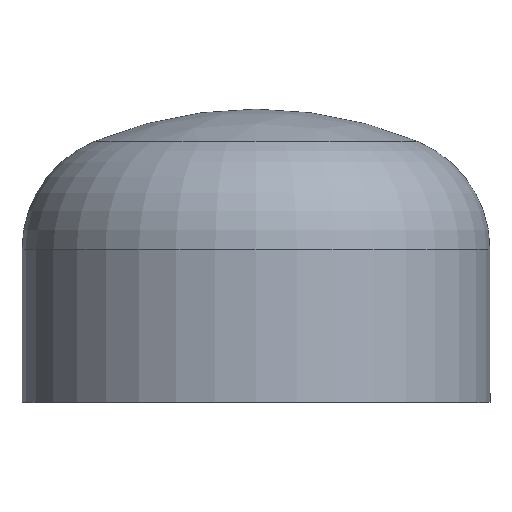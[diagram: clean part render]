
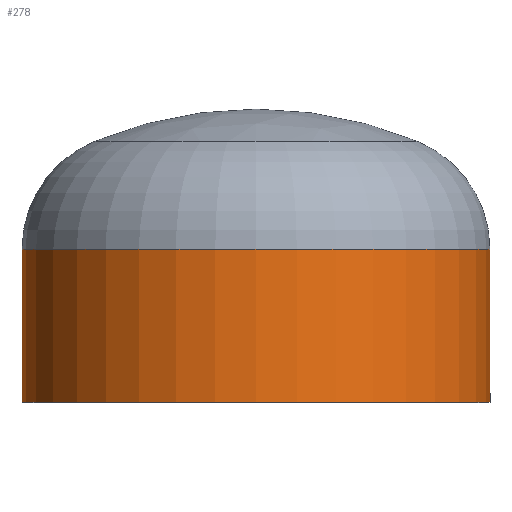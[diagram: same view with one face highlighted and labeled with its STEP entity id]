
A CAD part, top view. The second image highlights one B-rep face of the part: STEP entity #278.
In plain terms, the highlighted cylindrical face has radius 84.15 mm (diameter 168.3 mm), a partial arc.
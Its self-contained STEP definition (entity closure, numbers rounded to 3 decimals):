
#4 = CARTESIAN_POINT ( 'NONE',  ( 0., 55., 0. ) ) ;
#7 = ORIENTED_EDGE ( 'NONE', *, *, #201, .T. ) ;
#9 = AXIS2_PLACEMENT_3D ( 'NONE', #53, #93, #88 ) ;
#15 = VERTEX_POINT ( 'NONE', #408 ) ;
#44 = AXIS2_PLACEMENT_3D ( 'NONE', #362, #317, #207 ) ;
#51 = ORIENTED_EDGE ( 'NONE', *, *, #385, .T. ) ;
#53 = CARTESIAN_POINT ( 'NONE',  ( 0., 0., 0. ) ) ;
#68 = EDGE_LOOP ( 'NONE', ( #7, #51, #168, #110 ) ) ;
#88 = DIRECTION ( 'NONE',  ( 1., 0., 0. ) ) ;
#93 = DIRECTION ( 'NONE',  ( 0., -1., 0. ) ) ;
#96 = DIRECTION ( 'NONE',  ( 0., -1., 0. ) ) ;
#101 = AXIS2_PLACEMENT_3D ( 'NONE', #4, #281, #102 ) ;
#102 = DIRECTION ( 'NONE',  ( 1., 0., 0. ) ) ;
#107 = CARTESIAN_POINT ( 'NONE',  ( 84.15, 0., 0. ) ) ;
#110 = ORIENTED_EDGE ( 'NONE', *, *, #407, .F. ) ;
#111 = VERTEX_POINT ( 'NONE', #405 ) ;
#123 = DIRECTION ( 'NONE',  ( 0., -1., 0. ) ) ;
#127 = CARTESIAN_POINT ( 'NONE',  ( -84.15, 0., 0. ) ) ;
#136 = CYLINDRICAL_SURFACE ( 'NONE', #44, 84.15 ) ;
#141 = VERTEX_POINT ( 'NONE', #234 ) ;
#152 = VERTEX_POINT ( 'NONE', #227 ) ;
#157 = FACE_OUTER_BOUND ( 'NONE', #68, .T. ) ;
#168 = ORIENTED_EDGE ( 'NONE', *, *, #373, .F. ) ;
#201 = EDGE_CURVE ( 'NONE', #141, #111, #359, .T. ) ;
#204 = VECTOR ( 'NONE', #123, 1000. ) ;
#207 = DIRECTION ( 'NONE',  ( 1., 0., 0. ) ) ;
#227 = CARTESIAN_POINT ( 'NONE',  ( 84.15, 0., 0. ) ) ;
#234 = CARTESIAN_POINT ( 'NONE',  ( 84.15, 55., 0. ) ) ;
#258 = LINE ( 'NONE', #107, #371 ) ;
#266 = LINE ( 'NONE', #127, #204 ) ;
#278 = ADVANCED_FACE ( 'NONE', ( #157 ), #136, .T. ) ;
#281 = DIRECTION ( 'NONE',  ( 0., -1., 0. ) ) ;
#282 = CIRCLE ( 'NONE', #9, 84.15 ) ;
#317 = DIRECTION ( 'NONE',  ( 0., -1., 0. ) ) ;
#359 = CIRCLE ( 'NONE', #101, 84.15 ) ;
#362 = CARTESIAN_POINT ( 'NONE',  ( 0., 0., 0. ) ) ;
#371 = VECTOR ( 'NONE', #96, 1000. ) ;
#373 = EDGE_CURVE ( 'NONE', #152, #15, #282, .T. ) ;
#385 = EDGE_CURVE ( 'NONE', #111, #15, #266, .T. ) ;
#405 = CARTESIAN_POINT ( 'NONE',  ( -84.15, 55., 0. ) ) ;
#407 = EDGE_CURVE ( 'NONE', #141, #152, #258, .T. ) ;
#408 = CARTESIAN_POINT ( 'NONE',  ( -84.15, 0., 0. ) ) ;
